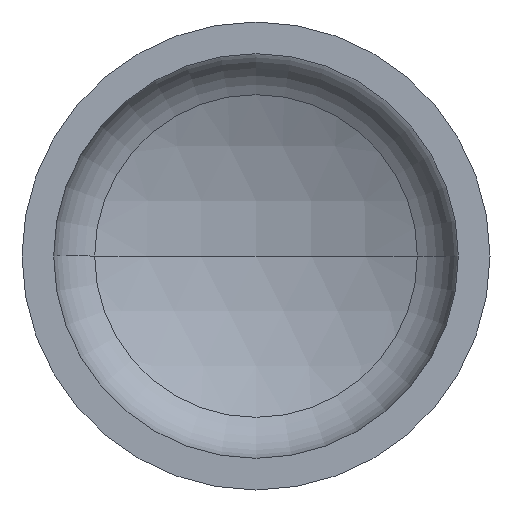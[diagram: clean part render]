
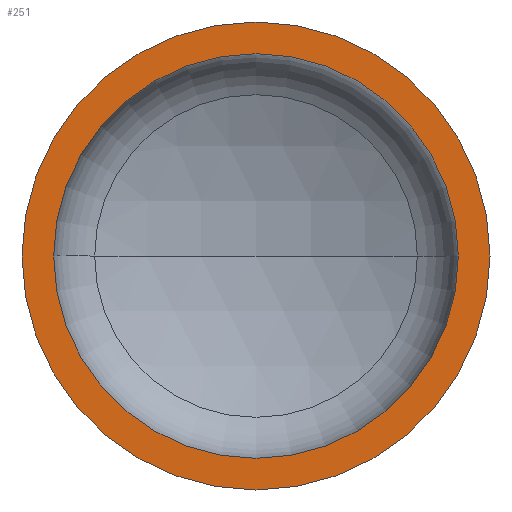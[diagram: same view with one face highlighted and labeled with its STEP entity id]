
A CAD part, front view. The second image highlights one B-rep face of the part: STEP entity #251.
In plain terms, the highlighted planar face has unit normal (0, -1, 0).
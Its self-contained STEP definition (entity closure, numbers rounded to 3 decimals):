
#5 = VERTEX_POINT ( 'NONE', #355 ) ;
#7 = AXIS2_PLACEMENT_3D ( 'NONE', #189, #369, #274 ) ;
#18 = AXIS2_PLACEMENT_3D ( 'NONE', #305, #358, #134 ) ;
#20 = DIRECTION ( 'NONE',  ( -1., 0., 0. ) ) ;
#43 = AXIS2_PLACEMENT_3D ( 'NONE', #238, #269, #20 ) ;
#59 = CIRCLE ( 'NONE', #7, 650. ) ;
#77 = AXIS2_PLACEMENT_3D ( 'NONE', #377, #299, #298 ) ;
#82 = AXIS2_PLACEMENT_3D ( 'NONE', #345, #334, #329 ) ;
#96 = ORIENTED_EDGE ( 'NONE', *, *, #112, .T. ) ;
#112 = EDGE_CURVE ( 'NONE', #5, #186, #308, .T. ) ;
#115 = EDGE_CURVE ( 'NONE', #216, #172, #167, .T. ) ;
#134 = DIRECTION ( 'NONE',  ( 1., 0., 0. ) ) ;
#158 = PLANE ( 'NONE',  #43 ) ;
#167 = CIRCLE ( 'NONE', #77, 562. ) ;
#168 = ORIENTED_EDGE ( 'NONE', *, *, #115, .F. ) ;
#172 = VERTEX_POINT ( 'NONE', #214 ) ;
#186 = VERTEX_POINT ( 'NONE', #199 ) ;
#189 = CARTESIAN_POINT ( 'NONE',  ( 0., 0., 0. ) ) ;
#196 = ORIENTED_EDGE ( 'NONE', *, *, #382, .T. ) ;
#199 = CARTESIAN_POINT ( 'NONE',  ( 650., 0., 0. ) ) ;
#210 = EDGE_LOOP ( 'NONE', ( #168, #391 ) ) ;
#214 = CARTESIAN_POINT ( 'NONE',  ( -562., 0., 0. ) ) ;
#216 = VERTEX_POINT ( 'NONE', #264 ) ;
#229 = FACE_BOUND ( 'NONE', #210, .T. ) ;
#238 = CARTESIAN_POINT ( 'NONE',  ( -650., 0., 0. ) ) ;
#251 = ADVANCED_FACE ( 'NONE', ( #229, #347 ), #158, .F. ) ;
#264 = CARTESIAN_POINT ( 'NONE',  ( 562., 0., 0. ) ) ;
#269 = DIRECTION ( 'NONE',  ( 0., 1., 0. ) ) ;
#274 = DIRECTION ( 'NONE',  ( 1., 0., 0. ) ) ;
#298 = DIRECTION ( 'NONE',  ( 1., 0., 0. ) ) ;
#299 = DIRECTION ( 'NONE',  ( 0., -1., 0. ) ) ;
#305 = CARTESIAN_POINT ( 'NONE',  ( 0., 0., 0. ) ) ;
#308 = CIRCLE ( 'NONE', #82, 650. ) ;
#329 = DIRECTION ( 'NONE',  ( 1., 0., 0. ) ) ;
#334 = DIRECTION ( 'NONE',  ( 0., -1., 0. ) ) ;
#344 = EDGE_LOOP ( 'NONE', ( #196, #96 ) ) ;
#345 = CARTESIAN_POINT ( 'NONE',  ( 0., 0., 0. ) ) ;
#347 = FACE_OUTER_BOUND ( 'NONE', #344, .T. ) ;
#355 = CARTESIAN_POINT ( 'NONE',  ( -650., 0., 0. ) ) ;
#358 = DIRECTION ( 'NONE',  ( 0., -1., 0. ) ) ;
#359 = EDGE_CURVE ( 'NONE', #172, #216, #393, .T. ) ;
#369 = DIRECTION ( 'NONE',  ( 0., -1., 0. ) ) ;
#377 = CARTESIAN_POINT ( 'NONE',  ( 0., 0., 0. ) ) ;
#382 = EDGE_CURVE ( 'NONE', #186, #5, #59, .T. ) ;
#391 = ORIENTED_EDGE ( 'NONE', *, *, #359, .F. ) ;
#393 = CIRCLE ( 'NONE', #18, 562. ) ;
